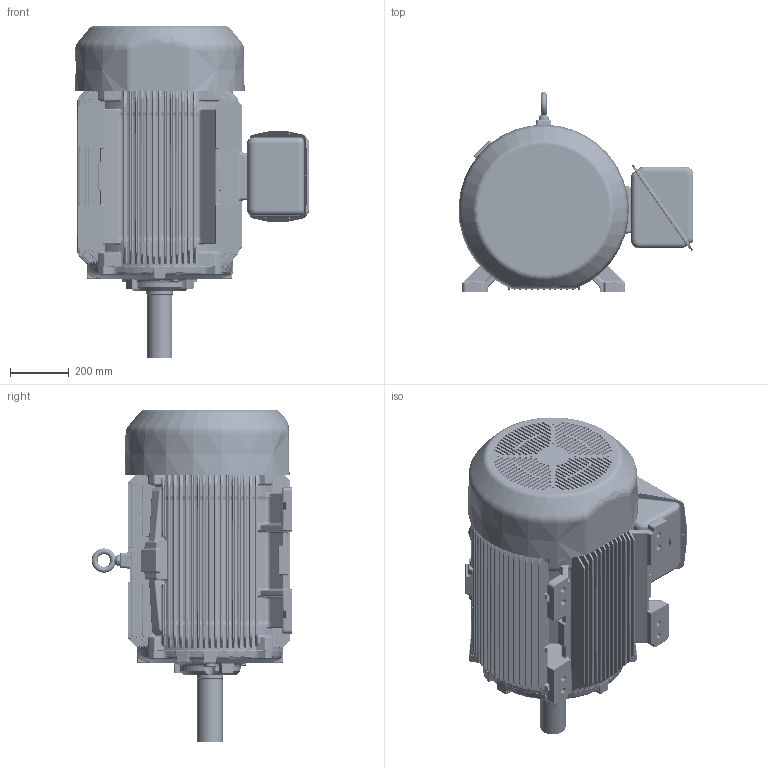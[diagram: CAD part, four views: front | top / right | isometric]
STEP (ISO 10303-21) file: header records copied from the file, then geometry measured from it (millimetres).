
FILE_DESCRIPTION((''),'2;1');
FILE_NAME('440_3D_ASM_ASM','2018-07-25T10:23:52',('EMD2341'),('Nidec Motor Corporation'),'CREO PARAMETRIC BY PTC INC, 2018020','CREO PARAMETRIC BY PTC INC, 2018020','');
FILE_SCHEMA(('CONFIG_CONTROL_DESIGN'));
Length unit declared in the file: inch
Products named in the file (10): 440_FOOTED_FRAME; 0011046; 440_T; 440_STL_FCVR; 440_STL_GSK_OBB; 440_STL_OBB; 440_STL_GSK_OBC; 440_STL_OBC; 440_DE_BRKT; 440_3D_ASM_ASM
Assembly tree (9 placements, depth 2):
  440_3D_ASM_ASM
    440_FOOTED_FRAME
    0011046
    440_T
    440_STL_FCVR
    440_STL_GSK_OBB
    440_STL_OBB
    440_STL_GSK_OBC
    440_STL_OBC
    440_DE_BRKT
Bounding box: 797.66 x 681.1 x 1127 mm (x, y, z)
Volume: 213003431.9 mm3; surface area: 6055377.7 mm2
Topology: 9 solids, 10 shells, 6025 faces, 13777 edges, 7892 vertices
Faces by surface type: bspline 2600, cylinder 1371, plane 1218, torus 368, extrusion 342, sphere 76, cone 50
Entity records: 273837 total; most frequent: CARTESIAN_POINT 156290, ORIENTED_EDGE 27548, DIRECTION 19431, EDGE_CURVE 13776, VERTEX_POINT 7892, AXIS2_PLACEMENT_3D 7288, EDGE_LOOP 6180, FACE_OUTER_BOUND 6025
